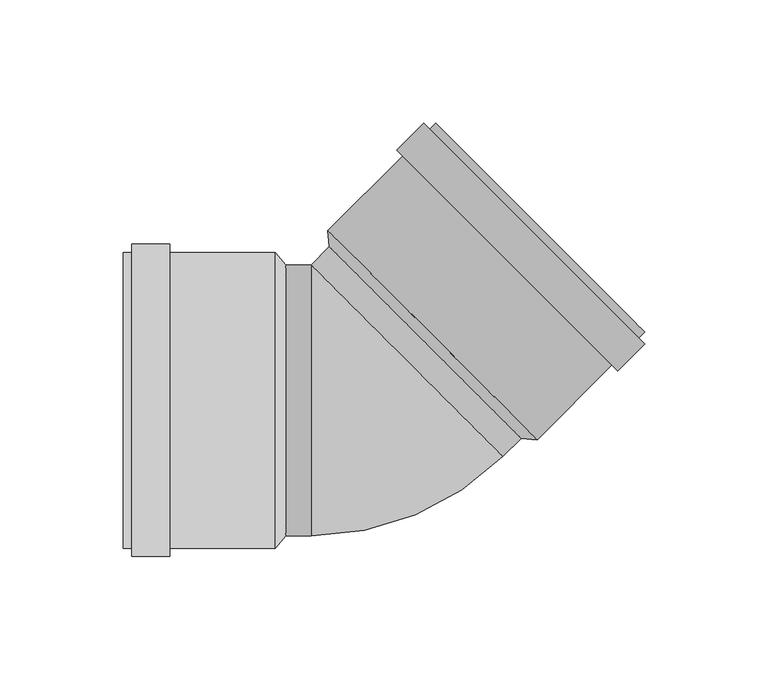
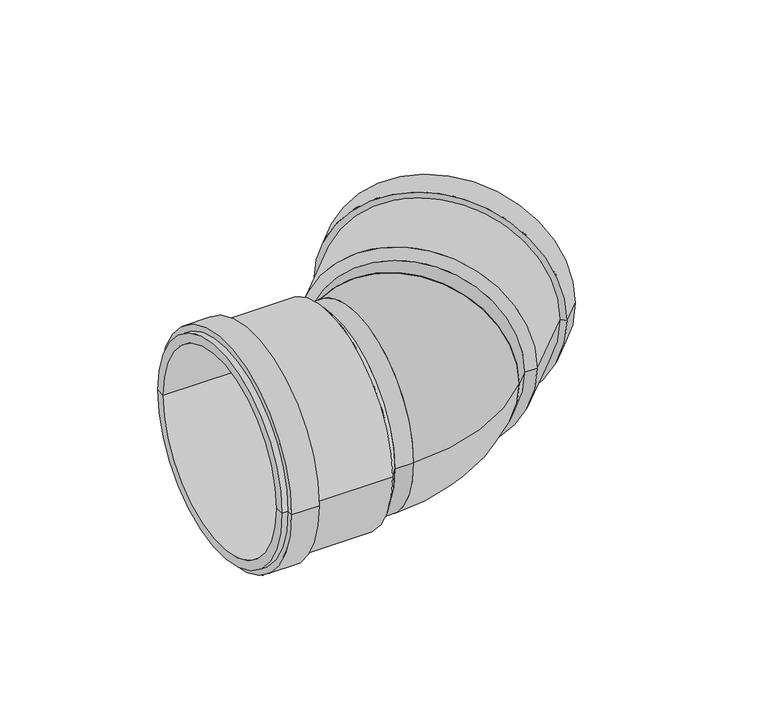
"""IFC4 building model written with IfcOpenShell, lengths in millimetres: pipe fitting geometry, pf_KGBD-2M : pf_KGBD-2M."""

from ifc_helpers import new_model, si_unit, point, frame, origin, origin_2d, place, context, project, spatial, polyline, circle_curve, ellipse_curve, trimmed, segment, composite_curve, outline, extrude, source, transform, mapped, element, save
from ifc_brep_helpers import plane_surface, cylinder_surface, revolved_surface, advanced_brep


def pipe_fitting_beb3b544(model_context):
    return source(origin(), model_context, "Body", "SolidModel", [
        advanced_brep(
        [(62.3668181, -15.4149278, 0.0), (-15.4149278, 62.3668181, 0.0), (-16.0513239, 68.9429112, 0.0), (68.9429112, -16.0513239, 0.0), (23.4759451, 23.4759451, 0.0), (112.6421102, 27.6478751, 0.0), (27.6478751, 112.6421102, 0.0), (31.2541197, 109.0358657, 0.0), (109.0358657, 31.2541197, 0.0), (110.2379472, 25.2437121, 0.0), (25.2437121, 110.2379472, 0.0), (112.6421102, 22.839549, 0.0), (22.839549, 112.6421102, 0.0), (101.6819551, 11.8793939, 0.0), (11.8793939, 101.6819551, 0.0), (99.2777921, 14.283557, 0.0), (14.283557, 99.2777921, 0.0), (65.3366666, -12.4450793, 0.0), (-12.4450793, 65.3366666, 0.0), (26.4457936, 26.4457936, 0.0)],
        [
            (0, 1, circle_curve(frame((23.4759451, 23.4759451, 0.0), z_axis=(0.7071067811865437, 0.7071067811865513, 0.0), x_axis=(-0.7071067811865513, 0.7071067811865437, 0.0)), 55.0)),
            (1, 2),
            (2, 3, circle_curve(frame((26.4457936, 26.4457936, 0.0), z_axis=(-0.7071067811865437, -0.7071067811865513, 0.0), x_axis=(-0.7071067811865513, 0.7071067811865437, 0.0)), 60.1)),
            (3, 0),
            (1, 0, circle_curve(frame((23.4759451, 23.4759451, 0.0), z_axis=(0.7071067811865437, 0.7071067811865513, 0.0), x_axis=(-0.7071067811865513, 0.7071067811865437, 0.0)), 55.0)),
            (3, 2, circle_curve(frame((26.4457936, 26.4457936, 0.0), z_axis=(-0.7071067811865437, -0.7071067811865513, 0.0), x_axis=(-0.7071067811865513, 0.7071067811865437, 0.0)), 60.1)),
            (4, 1),
            (0, 4),
            (5, 6, circle_curve(frame((70.1449927, 70.1449927, 0.0), z_axis=(0.7071067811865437, 0.7071067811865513, 0.0), x_axis=(-0.7071067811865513, 0.7071067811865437, 0.0)), 60.1)),
            (6, 7),
            (7, 8, circle_curve(frame((70.1449927, 70.1449927, 0.0), z_axis=(-0.7071067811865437, -0.7071067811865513, 0.0), x_axis=(-0.7071067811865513, 0.7071067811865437, 0.0)), 55.0)),
            (8, 5),
            (6, 5, circle_curve(frame((70.1449927, 70.1449927, 0.0), z_axis=(0.7071067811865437, 0.7071067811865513, 0.0), x_axis=(-0.7071067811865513, 0.7071067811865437, 0.0)), 60.1)),
            (8, 7, circle_curve(frame((70.1449927, 70.1449927, 0.0), z_axis=(-0.7071067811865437, -0.7071067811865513, 0.0), x_axis=(-0.7071067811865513, 0.7071067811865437, 0.0)), 55.0)),
            (9, 10, circle_curve(frame((67.7408296, 67.7408296, 0.0), z_axis=(0.7071067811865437, 0.7071067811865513, 0.0), x_axis=(-0.7071067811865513, 0.7071067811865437, 0.0)), 60.1)),
            (10, 6),
            (5, 9),
            (10, 9, circle_curve(frame((67.7408296, 67.7408296, 0.0), z_axis=(0.7071067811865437, 0.7071067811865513, 0.0), x_axis=(-0.7071067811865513, 0.7071067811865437, 0.0)), 60.1)),
            (11, 12, circle_curve(frame((67.7408296, 67.7408296, 0.0), z_axis=(0.7071067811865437, 0.7071067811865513, 0.0), x_axis=(-0.7071067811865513, 0.7071067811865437, 0.0)), 63.5)),
            (12, 10),
            (9, 11),
            (12, 11, circle_curve(frame((67.7408296, 67.7408296, 0.0), z_axis=(0.7071067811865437, 0.7071067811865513, 0.0), x_axis=(-0.7071067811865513, 0.7071067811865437, 0.0)), 63.5)),
            (13, 14, circle_curve(frame((56.7806745, 56.7806745, 0.0), z_axis=(0.7071067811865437, 0.7071067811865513, 0.0), x_axis=(-0.7071067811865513, 0.7071067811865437, 0.0)), 63.5)),
            (14, 12),
            (11, 13),
            (14, 13, circle_curve(frame((56.7806745, 56.7806745, 0.0), z_axis=(0.7071067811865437, 0.7071067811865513, 0.0), x_axis=(-0.7071067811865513, 0.7071067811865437, 0.0)), 63.5)),
            (15, 16, circle_curve(frame((56.7806745, 56.7806745, 0.0), z_axis=(0.7071067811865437, 0.7071067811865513, 0.0), x_axis=(-0.7071067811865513, 0.7071067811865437, 0.0)), 60.1)),
            (16, 14),
            (13, 15),
            (16, 15, circle_curve(frame((56.7806745, 56.7806745, 0.0), z_axis=(0.7071067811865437, 0.7071067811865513, 0.0), x_axis=(-0.7071067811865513, 0.7071067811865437, 0.0)), 60.1)),
            (2, 16),
            (15, 3),
            (17, 18, circle_curve(frame((26.4457936, 26.4457936, 0.0), z_axis=(0.7071067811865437, 0.7071067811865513, 0.0), x_axis=(-0.7071067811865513, 0.7071067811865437, 0.0)), 55.0)),
            (18, 19),
            (19, 17),
            (18, 17, circle_curve(frame((26.4457936, 26.4457936, 0.0), z_axis=(0.7071067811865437, 0.7071067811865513, 0.0), x_axis=(-0.7071067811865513, 0.7071067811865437, 0.0)), 55.0)),
            (7, 18),
            (17, 8),
        ],
        [
            revolved_surface(polyline([(-16.0513239, 68.9429112, 0.0), (-15.4149278, 62.3668181, 0.0)]), (23.4759451, 23.4759451, 0.0), (-0.7071067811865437, -0.7071067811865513, 0.0)),
            plane_surface(frame((23.4759451, 23.4759451, 0.0), z_axis=(-0.7071067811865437, -0.7071067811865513, 0.0), x_axis=(-0.7071067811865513, 0.7071067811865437, 0.0))),
            plane_surface(frame((70.1449927, 70.1449927, 0.0), z_axis=(0.7071067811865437, 0.7071067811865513, 0.0), x_axis=(-0.7071067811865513, 0.7071067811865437, 0.0))),
            cylinder_surface(frame((23.4759451, 23.4759451, 0.0), z_axis=(-0.7071067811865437, -0.7071067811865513, 0.0), x_axis=(-0.7071067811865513, 0.7071067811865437, 0.0)), 60.1),
            plane_surface(frame((67.7408296, 67.7408296, 0.0), z_axis=(0.7071067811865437, 0.7071067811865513, 0.0), x_axis=(-0.7071067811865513, 0.7071067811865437, 0.0))),
            cylinder_surface(frame((23.4759451, 23.4759451, 0.0), z_axis=(-0.7071067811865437, -0.7071067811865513, 0.0), x_axis=(-0.7071067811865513, 0.7071067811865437, 0.0)), 63.5),
            plane_surface(frame((56.7806745, 56.7806745, 0.0), z_axis=(-0.7071067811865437, -0.7071067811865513, 0.0), x_axis=(-0.7071067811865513, 0.7071067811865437, 0.0))),
            plane_surface(frame((26.4457936, 26.4457936, 0.0), z_axis=(0.7071067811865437, 0.7071067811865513, 0.0), x_axis=(-0.7071067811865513, 0.7071067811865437, 0.0))),
            revolved_surface(polyline([(-12.445079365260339, 65.33666656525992, 0.0), (31.254119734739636, 109.03586566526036, 0.0)]), (23.4759451, 23.4759451, 0.0), (-0.7071067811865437, -0.7071067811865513, 0.0)),
        ],
        [
            (0, [[1, 2, 3, 4]]),
            (0, [[5, -4, 6, -2]]),
            (1, [[7, -1, 8]]),
            (1, [[-8, -5, -7]]),
            (2, [[9, 10, 11, 12]]),
            (2, [[13, -12, 14, -10]]),
            (3, [[15, 16, -9, 17]]),
            (3, [[18, -17, -13, -16]]),
            (4, [[19, 20, -15, 21]]),
            (4, [[22, -21, -18, -20]]),
            (5, [[23, 24, -19, 25]]),
            (5, [[26, -25, -22, -24]]),
            (6, [[27, 28, -23, 29]]),
            (6, [[30, -29, -26, -28]]),
            (3, [[-3, 31, -27, 32]]),
            (3, [[-6, -32, -30, -31]]),
            (7, [[33, 34, 35]]),
            (7, [[36, -35, -34]]),
            (8, [[-11, 37, -33, 38]]),
            (8, [[-14, -38, -36, -37]]),
        ],
    ),
        advanced_brep(
        [(-33.2, 55.0, 0.0), (-33.2, -55.0, 0.0), (-37.4, -60.1, 0.0), (-37.4, 60.1, 0.0), (-33.2, 0.0, 0.0), (-99.2, 60.1, 0.0), (-99.2, -60.1, 0.0), (-99.2, -55.0, 0.0), (-99.2, 55.0, 0.0), (-95.8, 60.1, 0.0), (-95.8, -60.1, 0.0), (-95.8, 63.5, 0.0), (-95.8, -63.5, 0.0), (-80.3, 63.5, 0.0), (-80.3, -63.5, 0.0), (-80.3, 60.1, 0.0), (-80.3, -60.1, 0.0), (-37.4, 55.0, 0.0), (-37.4, -55.0, 0.0), (-37.4, 0.0, 0.0)],
        [
            (0, 1, circle_curve(frame((-33.2, 0.0, 0.0), z_axis=(-1.0, 0.0, 0.0), x_axis=(0.0, -1.0, 0.0)), 55.0)),
            (1, 2),
            (2, 3, circle_curve(frame((-37.4, 0.0, 0.0), z_axis=(1.0, 0.0, 0.0), x_axis=(0.0, -1.0, 0.0)), 60.1)),
            (3, 0),
            (1, 0, circle_curve(frame((-33.2, 0.0, 0.0), z_axis=(-1.0, 0.0, 0.0), x_axis=(0.0, -1.0, 0.0)), 55.0)),
            (3, 2, circle_curve(frame((-37.4, 0.0, 0.0), z_axis=(1.0, 0.0, 0.0), x_axis=(0.0, -1.0, 0.0)), 60.1)),
            (4, 1),
            (0, 4),
            (5, 6, circle_curve(frame((-99.2, 0.0, 0.0), z_axis=(-1.0, 0.0, 0.0), x_axis=(0.0, -1.0, 0.0)), 60.1)),
            (6, 7),
            (7, 8, circle_curve(frame((-99.2, 0.0, 0.0), z_axis=(1.0, 0.0, 0.0), x_axis=(0.0, -1.0, 0.0)), 55.0)),
            (8, 5),
            (6, 5, circle_curve(frame((-99.2, 0.0, 0.0), z_axis=(-1.0, 0.0, 0.0), x_axis=(0.0, -1.0, 0.0)), 60.1)),
            (8, 7, circle_curve(frame((-99.2, 0.0, 0.0), z_axis=(1.0, 0.0, 0.0), x_axis=(0.0, -1.0, 0.0)), 55.0)),
            (9, 10, circle_curve(frame((-95.8, 0.0, 0.0), z_axis=(-1.0, 0.0, 0.0), x_axis=(0.0, -1.0, 0.0)), 60.1)),
            (10, 6),
            (5, 9),
            (10, 9, circle_curve(frame((-95.8, 0.0, 0.0), z_axis=(-1.0, 0.0, 0.0), x_axis=(0.0, -1.0, 0.0)), 60.1)),
            (11, 12, circle_curve(frame((-95.8, 0.0, 0.0), z_axis=(-1.0, 0.0, 0.0), x_axis=(0.0, -1.0, 0.0)), 63.5)),
            (12, 10),
            (9, 11),
            (12, 11, circle_curve(frame((-95.8, 0.0, 0.0), z_axis=(-1.0, 0.0, 0.0), x_axis=(0.0, -1.0, 0.0)), 63.5)),
            (13, 14, circle_curve(frame((-80.3, 0.0, 0.0), z_axis=(-1.0, 0.0, 0.0), x_axis=(0.0, -1.0, 0.0)), 63.5)),
            (14, 12),
            (11, 13),
            (14, 13, circle_curve(frame((-80.3, 0.0, 0.0), z_axis=(-1.0, 0.0, 0.0), x_axis=(0.0, -1.0, 0.0)), 63.5)),
            (15, 16, circle_curve(frame((-80.3, 0.0, 0.0), z_axis=(-1.0, 0.0, 0.0), x_axis=(0.0, -1.0, 0.0)), 60.1)),
            (16, 14),
            (13, 15),
            (16, 15, circle_curve(frame((-80.3, 0.0, 0.0), z_axis=(-1.0, 0.0, 0.0), x_axis=(0.0, -1.0, 0.0)), 60.1)),
            (2, 16),
            (15, 3),
            (17, 18, circle_curve(frame((-37.4, 0.0, 0.0), z_axis=(-1.0, 0.0, 0.0), x_axis=(0.0, -1.0, 0.0)), 55.0)),
            (18, 19),
            (19, 17),
            (18, 17, circle_curve(frame((-37.4, 0.0, 0.0), z_axis=(-1.0, 0.0, 0.0), x_axis=(0.0, -1.0, 0.0)), 55.0)),
            (7, 18),
            (17, 8),
        ],
        [
            revolved_surface(polyline([(-37.4, -60.1, 0.0), (-33.2, -55.0, 0.0)]), (-33.2, 0.0, 0.0), (1.0, 0.0, 0.0)),
            plane_surface(frame((-33.2, 0.0, 0.0), z_axis=(1.0, 0.0, 0.0), x_axis=(0.0, -1.0, 0.0))),
            plane_surface(frame((-99.2, 0.0, 0.0), z_axis=(-1.0, 0.0, 0.0), x_axis=(0.0, -1.0, 0.0))),
            cylinder_surface(frame((-33.2, 0.0, 0.0), z_axis=(1.0, 0.0, 0.0), x_axis=(0.0, -1.0, 0.0)), 60.1),
            plane_surface(frame((-95.8, 0.0, 0.0), z_axis=(-1.0, 0.0, 0.0), x_axis=(0.0, -1.0, 0.0))),
            cylinder_surface(frame((-33.2, 0.0, 0.0), z_axis=(1.0, 0.0, 0.0), x_axis=(0.0, -1.0, 0.0)), 63.5),
            plane_surface(frame((-80.3, 0.0, 0.0), z_axis=(1.0, 0.0, 0.0), x_axis=(0.0, -1.0, 0.0))),
            plane_surface(frame((-37.4, 0.0, 0.0), z_axis=(-1.0, 0.0, 0.0), x_axis=(0.0, -1.0, 0.0))),
            revolved_surface(polyline([(-37.4, -55.0, 0.0), (-99.2, -55.0, 0.0)]), (-33.2, 0.0, 0.0), (1.0, 0.0, 0.0)),
        ],
        [
            (0, [[1, 2, 3, 4]]),
            (0, [[5, -4, 6, -2]]),
            (1, [[7, -1, 8]]),
            (1, [[-8, -5, -7]]),
            (2, [[9, 10, 11, 12]]),
            (2, [[13, -12, 14, -10]]),
            (3, [[15, 16, -9, 17]]),
            (3, [[18, -17, -13, -16]]),
            (4, [[19, 20, -15, 21]]),
            (4, [[22, -21, -18, -20]]),
            (5, [[23, 24, -19, 25]]),
            (5, [[26, -25, -22, -24]]),
            (6, [[27, 28, -23, 29]]),
            (6, [[30, -29, -26, -28]]),
            (3, [[-3, 31, -27, 32]]),
            (3, [[-6, -32, -30, -31]]),
            (7, [[33, 34, 35]]),
            (7, [[36, -35, -34]]),
            (8, [[-11, 37, -33, 38]]),
            (8, [[-14, -38, -36, -37]]),
        ],
    ),
        extrude(outline(composite_curve([segment(trimmed(circle_curve(origin_2d(), 55.0), [point((0.0, -55.0))], [point((0.0, 55.0))], False, "CARTESIAN"), True, "CONTINUOUS"), segment(trimmed(circle_curve(origin_2d(), 55.0), [point((0.0, 55.0))], [point((0.0, -55.0))], False, "CARTESIAN"), True, "CONTINUOUS")], self_intersect=False)), frame((16.109127, 16.109127, 0.0), z_axis=(0.7071067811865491, 0.7071067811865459, 0.0), x_axis=(0.0, 0.0, 1.0)), (0.0, 0.0, 1.0), 10.4182541),
        extrude(outline(composite_curve([segment(trimmed(circle_curve(origin_2d(), 55.0), [point((-55.0, 0.0))], [point((55.0, 0.0))], False, "CARTESIAN"), True, "CONTINUOUS"), segment(trimmed(circle_curve(origin_2d(), 55.0), [point((55.0, 0.0))], [point((-55.0, 0.0))], False, "CARTESIAN"), True, "CONTINUOUS")], self_intersect=False)), frame((-33.2, 0.0, 0.0), z_axis=(1.0, 0.0, 0.0), x_axis=(0.0, 1.0, 0.0)), (0.0, 0.0, 1.0), 10.4182541),
        advanced_brep(
        [(-22.7817459, -55.0, 0.0), (-22.7817459, 55.0, 0.0), (55.0, -22.7817459, 0.0)],
        [
            (0, 1, circle_curve(frame((-22.7817459, 0.0, 0.0), z_axis=(-1.0, 0.0, 0.0), x_axis=(0.0, 1.0, 0.0)), 55.0)),
            (1, 0, circle_curve(frame((-22.7817459, 0.0, 0.0), z_axis=(-1.0, 0.0, 0.0), x_axis=(0.0, 1.0, 0.0)), 55.0)),
            (2, 1, circle_curve(frame((16.109127, 16.109127, 0.0), z_axis=(0.7071067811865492, 0.7071067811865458, 0.0), x_axis=(-0.7071067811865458, 0.7071067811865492, 0.0)), 55.0)),
            (1, 2, circle_curve(frame((16.109127, 16.109127, 0.0), z_axis=(0.7071067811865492, 0.7071067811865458, 0.0), x_axis=(-0.7071067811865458, 0.7071067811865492, 0.0)), 55.0)),
            (2, 0, circle_curve(frame((-22.7817459, 55.0, 0.0), z_axis=(0.0, 0.0, -1.0), x_axis=(0.0, -1.0, 0.0)), 110.0)),
        ],
        [
            plane_surface(frame((-22.7817459, 55.0, -14.8), z_axis=(-1.0, 0.0, 0.0), x_axis=(0.0, -1.0, 0.0))),
            plane_surface(frame((-22.7817459, 55.0, -14.8), z_axis=(0.7071067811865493, 0.7071067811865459, 0.0), x_axis=(0.7071067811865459, -0.7071067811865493, 0.0))),
            revolved_surface(trimmed(ellipse_curve(frame((-22.7817459, 0.0, 0.0), z_axis=(1.0, 0.0, 0.0), x_axis=(0.0, 1.0, 0.0)), 55.0, 55.0), [point((-22.7817459, -55.0, 0.0))], [point((-22.7817459, 55.0, 0.0))], True, "CARTESIAN"), (-22.7817459, 55.0, -14.8), (0.0, 0.0, -1.0)),
            revolved_surface(trimmed(ellipse_curve(frame((-22.7817459, 0.0, 0.0), z_axis=(1.0, 0.0, 0.0), x_axis=(0.0, 1.0, 0.0)), 55.0, 55.0), [point((-22.7817459, 55.0, 0.0))], [point((-22.7817459, -55.0, 0.0))], True, "CARTESIAN"), (-22.7817459, 55.0, -14.8), (0.0, 0.0, -1.0)),
        ],
        [
            (0, [[1, 2]]),
            (1, [[3, 4]]),
            (2, [[5, -2, -3]]),
            (3, [[-1, -5, -4]]),
        ],
    ),
    ])


if __name__ == "__main__":
    model = new_model("IFC4")
    model_context = context("Model", 3, world=origin())
    ifc_project = project(units=[si_unit("LENGTHUNIT", "METRE", prefix="MILLI")], contexts=[model_context])
    site = spatial("IfcSite", under=ifc_project)
    building = spatial("IfcBuilding", under=site)
    placement = place(None, origin())
    pipe_fitting_shape = pipe_fitting_beb3b544(model_context)
    element("IfcPipeFitting", 1, ObjectType="pf_KGBD-2M : pf_KGBD-2M", at=placement, inside=building, context=model_context, shape_type="MappedRepresentation", body=[
        mapped(pipe_fitting_shape, transform((0.0, 0.0, 0.0), x_axis=(1.0, 0.0, 0.0), y_axis=(0.0, 1.0, 0.0), z_axis=(0.0, 0.0, 1.0))),
    ])
    save(model, "model.ifc")
